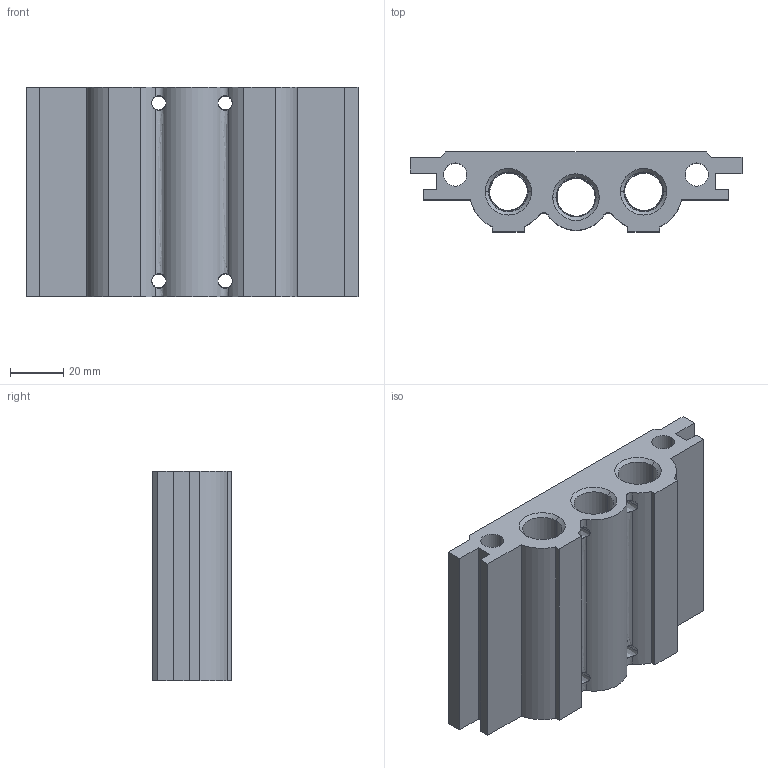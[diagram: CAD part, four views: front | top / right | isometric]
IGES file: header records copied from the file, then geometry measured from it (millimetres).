
Global section: file name: No Iges File Name specified; native system: AutoDesk Inventor R11.0; preprocessor: AutoDesk Inventor Iges Exporter R11.0; author: No Author specified; organization: No Organization specified; date: 20061201.115315; units: millimetre
Bounding box: 125 x 30 x 79 mm (x, y, z)
Volume: 161746.1 mm3; surface area: 48891.2 mm2
Topology: 1 solids, 1 shells, 142 faces, 378 edges, 248 vertices
Faces by surface type: bspline 81, revolution 28, plane 28, cylinder 5
